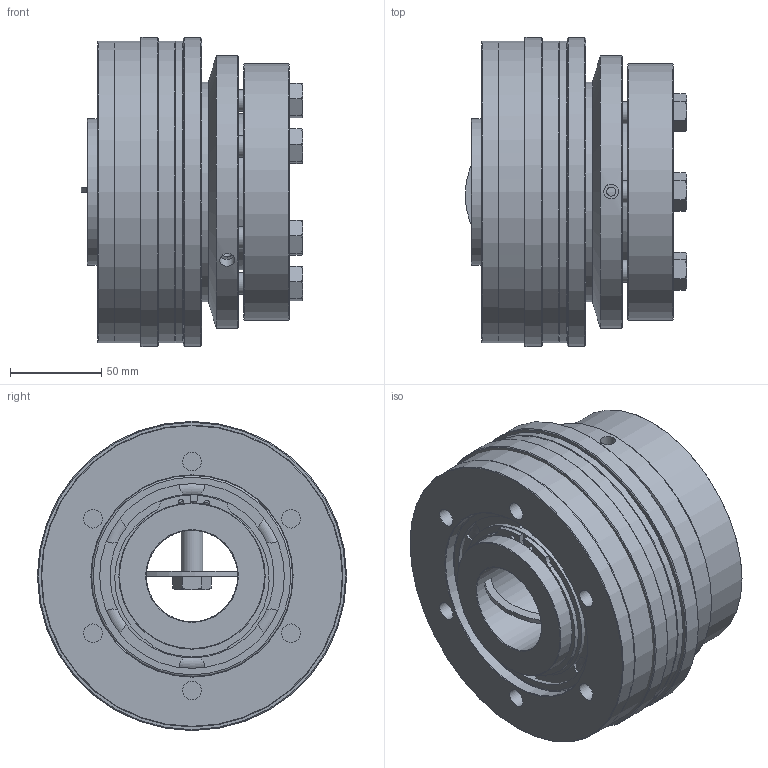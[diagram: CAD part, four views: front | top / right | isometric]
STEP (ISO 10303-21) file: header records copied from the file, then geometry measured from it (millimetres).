
FILE_DESCRIPTION( ( 'Unknown' ), '1' );
FILE_NAME( 'C:/Dokumente und Einstellungen/Sven/Desktop/hp kbk/KBK L-A-1400.stp', 'Unknown', ( 'Unknown' ), ( 'Unknown' ), 'XStep 1.0', 'Unknown', ' ' );
FILE_SCHEMA( ( 'automotive_design' ) );
Length unit declared in the file: millimetre
Products named in the file (12): Assem1; Assem2; ball_bearing_-_61916_0_01; ball_bearing_-_61916_0_02; ball_bearing_-_61916_0_03; Stellring 800; Druckring 800; a_80; KBK L-A-800 Grundkörper; din_en_24017_m12x40; Flansch 800; Druckring L-A-800
Bounding box: 121.2 x 169 x 169 mm (x, y, z)
Volume: 3043390.6 mm3; surface area: 613334.7 mm2
Topology: 28 solids, 28 shells, 487 faces, 1024 edges, 652 vertices
Faces by surface type: plane 197, cylinder 142, cone 116, torus 32
Full cylindrical faces by diameter (mm): 3 x4, 4.917 x6, 6.2 x6, 8.1 x6, 10.106 x24, 12 x7, 14 x12, 16.63 x7, 50 x2, 76.5 x2, 80 x7, 85.816 x2, 89.6 x6, 100 x2, 101 x6, 110 x5, 120 x4, 135 x2, 140 x2, 148 x2, 149 x2, 165 x4, 169 x2
Entity records: 5389 total; most frequent: CARTESIAN_POINT 1163, DIRECTION 816, ORIENTED_EDGE 534, AXIS2_PLACEMENT_3D 378, EDGE_LOOP 328, EDGE_CURVE 267, FACE_OUTER_BOUND 241, VERTEX_POINT 219
